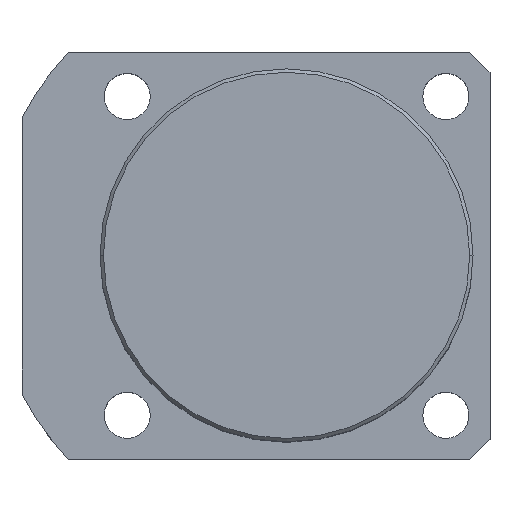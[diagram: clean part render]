
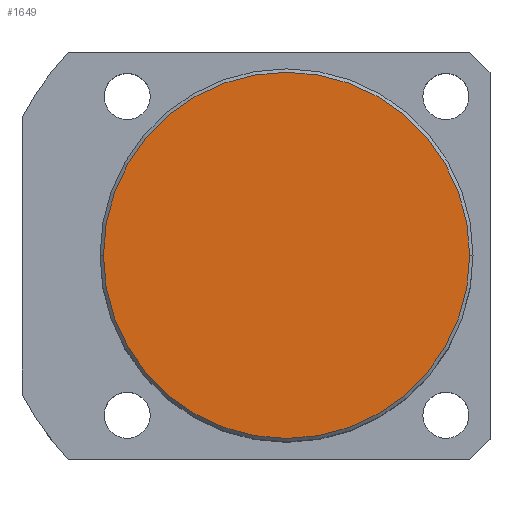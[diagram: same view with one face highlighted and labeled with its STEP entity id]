
A CAD part, top view. The second image highlights one B-rep face of the part: STEP entity #1649.
In plain terms, the highlighted planar face has unit normal (0, 0, 1).
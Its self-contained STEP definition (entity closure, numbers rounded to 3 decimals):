
#36 = CARTESIAN_POINT ( 'NONE',  ( 0., 0., 55. ) ) ;
#39 = AXIS2_PLACEMENT_3D ( 'NONE', #36, #1020, #585 ) ;
#116 = FACE_OUTER_BOUND ( 'NONE', #1709, .T. ) ;
#152 = CARTESIAN_POINT ( 'NONE',  ( 0., 0., 55. ) ) ;
#174 = AXIS2_PLACEMENT_3D ( 'NONE', #779, #1077, #1208 ) ;
#585 = DIRECTION ( 'NONE',  ( 1., 0., 0. ) ) ;
#604 = DIRECTION ( 'NONE',  ( 0., 0., 1. ) ) ;
#779 = CARTESIAN_POINT ( 'NONE',  ( 0., 0., 55. ) ) ;
#793 = VERTEX_POINT ( 'NONE', #1082 ) ;
#812 = ORIENTED_EDGE ( 'NONE', *, *, #1103, .T. ) ;
#861 = DIRECTION ( 'NONE',  ( 1., 0., 0. ) ) ;
#909 = CARTESIAN_POINT ( 'NONE',  ( -27., 0., 55. ) ) ;
#1020 = DIRECTION ( 'NONE',  ( 0., 0., 1. ) ) ;
#1077 = DIRECTION ( 'NONE',  ( 0., 0., 1. ) ) ;
#1082 = CARTESIAN_POINT ( 'NONE',  ( 27., 0., 55. ) ) ;
#1103 = EDGE_CURVE ( 'NONE', #1769, #793, #1109, .T. ) ;
#1109 = CIRCLE ( 'NONE', #1465, 27. ) ;
#1136 = ORIENTED_EDGE ( 'NONE', *, *, #1285, .T. ) ;
#1208 = DIRECTION ( 'NONE',  ( 1., 0., 0. ) ) ;
#1213 = CIRCLE ( 'NONE', #174, 27. ) ;
#1285 = EDGE_CURVE ( 'NONE', #793, #1769, #1213, .T. ) ;
#1465 = AXIS2_PLACEMENT_3D ( 'NONE', #152, #604, #861 ) ;
#1565 = PLANE ( 'NONE',  #39 ) ;
#1649 = ADVANCED_FACE ( 'NONE', ( #116 ), #1565, .T. ) ;
#1709 = EDGE_LOOP ( 'NONE', ( #812, #1136 ) ) ;
#1769 = VERTEX_POINT ( 'NONE', #909 ) ;
